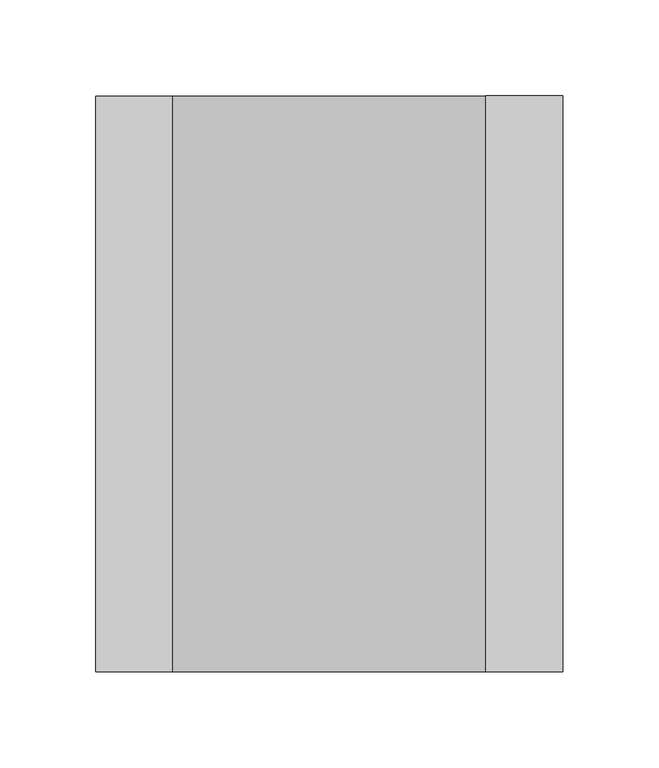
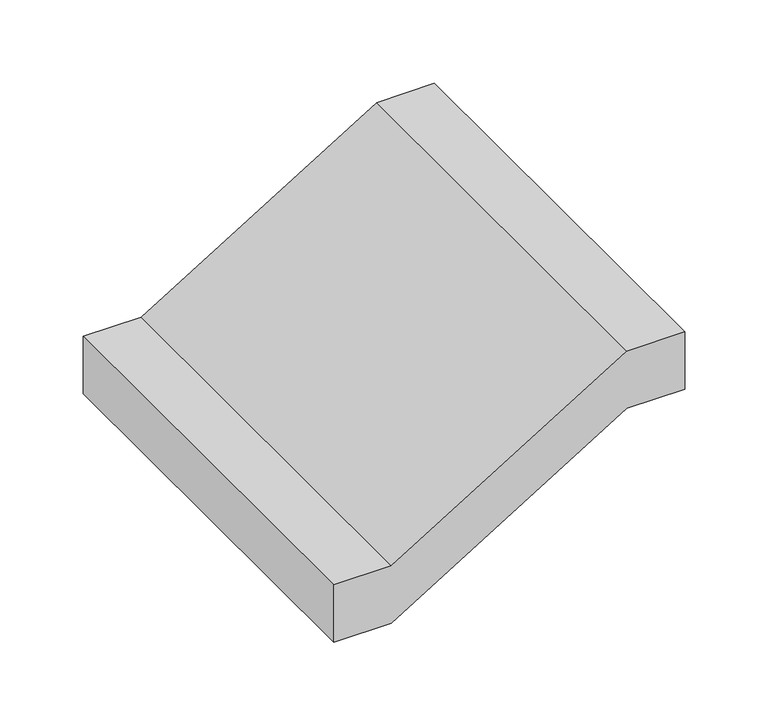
"""IFC4 building model written with IfcOpenShell, lengths in millimetres: cable carrier fitting geometry, BAKS_Vertical bypass : OPNNJ_H42."""

from ifc_helpers import new_model, si_unit, frame, origin, place, context, project, spatial, polyline, outline, extrude, source, transform, mapped, element, save


def cable_carrier_fitting_1724e2f5(model_context):
    return source(origin(), model_context, "Body", "SweptSolid", [
        extrude(outline(polyline([(21.0, -121.5), (-21.0, -121.5), (-21.0, -81.5), (79.0, 81.5), (79.0, 121.5), (121.0, 121.5), (121.0, 81.5), (21.0, -81.5), (21.0, -121.5)])), frame((0.0, -150.0, 0.0), z_axis=(0.0, 1.0, 0.0), x_axis=(0.0, 0.0, 1.0)), (0.0, 0.0, 1.0), 300.0),
    ])


if __name__ == "__main__":
    model = new_model("IFC4")
    model_context = context("Model", 3, world=origin())
    ifc_project = project(units=[si_unit("LENGTHUNIT", "METRE", prefix="MILLI")], contexts=[model_context])
    site = spatial("IfcSite", under=ifc_project)
    building = spatial("IfcBuilding", under=site)
    placement = place(None, origin())
    cable_carrier_fitting_shape = cable_carrier_fitting_1724e2f5(model_context)
    element("IfcCableCarrierFitting", 1, ObjectType="BAKS_Vertical bypass : OPNNJ_H42", at=placement, inside=building, context=model_context, shape_type="MappedRepresentation", body=[
        mapped(cable_carrier_fitting_shape, transform((0.0, 0.0, 0.0), x_axis=(1.0, 0.0, 0.0), y_axis=(0.0, 1.0, 0.0), z_axis=(0.0, 0.0, 1.0))),
    ])
    save(model, "model.ifc")
